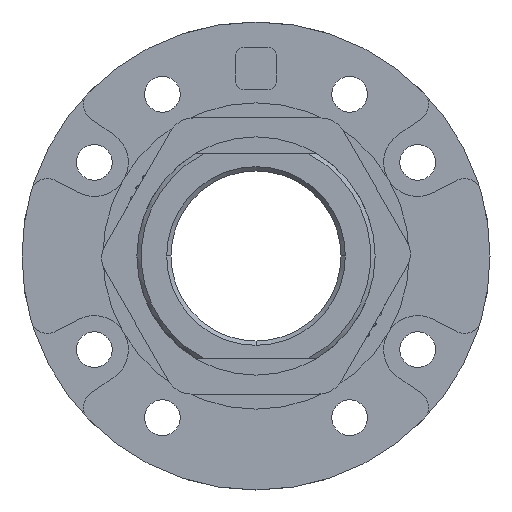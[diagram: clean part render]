
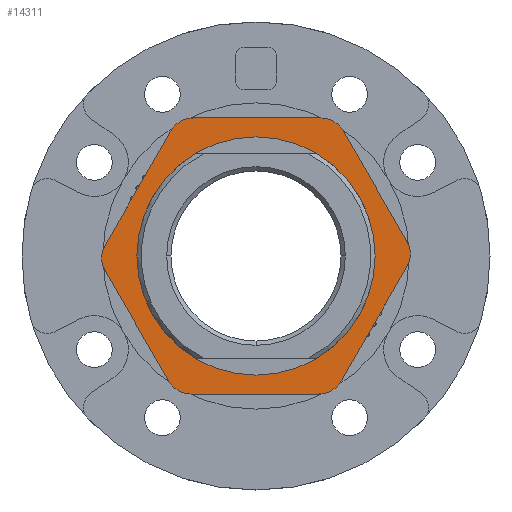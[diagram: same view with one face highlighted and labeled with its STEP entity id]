
A CAD part, front view. The second image highlights one B-rep face of the part: STEP entity #14311.
In plain terms, the highlighted planar face has unit normal (0, -1, 0).
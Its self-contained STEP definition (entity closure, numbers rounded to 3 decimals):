
#221 = DIRECTION ( 'NONE',  ( 0., 0., 1. ) ) ;
#459 = LINE ( 'NONE', #1862, #9056 ) ;
#616 = CARTESIAN_POINT ( 'NONE',  ( 16., -4., -16. ) ) ;
#969 = EDGE_CURVE ( 'NONE', #5305, #7128, #16354, .T. ) ;
#1434 = VERTEX_POINT ( 'NONE', #6833 ) ;
#1451 = CARTESIAN_POINT ( 'NONE',  ( 16., -4., -16. ) ) ;
#1676 = CARTESIAN_POINT ( 'NONE',  ( 8.232, -4., -29. ) ) ;
#1739 = CARTESIAN_POINT ( 'NONE',  ( 16., -4., -2. ) ) ;
#1862 = CARTESIAN_POINT ( 'NONE',  ( 6.5, -4., -32. ) ) ;
#2171 = CARTESIAN_POINT ( 'NONE',  ( 16., -4., -30. ) ) ;
#2496 = VECTOR ( 'NONE', #12977, 1000. ) ;
#2900 = DIRECTION ( 'NONE',  ( 0., -1., 0. ) ) ;
#3077 = AXIS2_PLACEMENT_3D ( 'NONE', #616, #6688, #5096 ) ;
#3500 = CARTESIAN_POINT ( 'NONE',  ( 8.232, -4., 0. ) ) ;
#3655 = AXIS2_PLACEMENT_3D ( 'NONE', #8654, #19398, #5773 ) ;
#3732 = EDGE_CURVE ( 'NONE', #10316, #16621, #19338, .T. ) ;
#3734 = CIRCLE ( 'NONE', #9134, 3. ) ;
#3752 = CARTESIAN_POINT ( 'NONE',  ( 23.768, -4., -29. ) ) ;
#3945 = VERTEX_POINT ( 'NONE', #3500 ) ;
#3961 = LINE ( 'NONE', #16796, #18246 ) ;
#4017 = CARTESIAN_POINT ( 'NONE',  ( 8.232, -4., -32. ) ) ;
#4351 = DIRECTION ( 'NONE',  ( 0., 0., -1. ) ) ;
#4532 = ORIENTED_EDGE ( 'NONE', *, *, #18024, .F. ) ;
#4636 = AXIS2_PLACEMENT_3D ( 'NONE', #1451, #6335, #4351 ) ;
#4644 = CIRCLE ( 'NONE', #7189, 3. ) ;
#4717 = ORIENTED_EDGE ( 'NONE', *, *, #17569, .T. ) ;
#5028 = VERTEX_POINT ( 'NONE', #6906 ) ;
#5096 = DIRECTION ( 'NONE',  ( 0., 0., -1. ) ) ;
#5305 = VERTEX_POINT ( 'NONE', #13896 ) ;
#5405 = CARTESIAN_POINT ( 'NONE',  ( 25.5, -4., 0. ) ) ;
#5412 = DIRECTION ( 'NONE',  ( 0., -1., 0. ) ) ;
#5773 = DIRECTION ( 'NONE',  ( 0., 0., 1. ) ) ;
#5919 = CARTESIAN_POINT ( 'NONE',  ( 33.872, -4., -14.5 ) ) ;
#5945 = CIRCLE ( 'NONE', #3077, 14. ) ;
#6240 = FACE_BOUND ( 'NONE', #6797, .T. ) ;
#6335 = DIRECTION ( 'NONE',  ( 0., -1., 0. ) ) ;
#6377 = DIRECTION ( 'NONE',  ( 0., 0., 1. ) ) ;
#6558 = VERTEX_POINT ( 'NONE', #1739 ) ;
#6579 = EDGE_CURVE ( 'NONE', #7611, #5305, #459, .T. ) ;
#6688 = DIRECTION ( 'NONE',  ( 0., -1., 0. ) ) ;
#6797 = EDGE_LOOP ( 'NONE', ( #4532, #12206 ) ) ;
#6833 = CARTESIAN_POINT ( 'NONE',  ( 26.366, -4., -1.5 ) ) ;
#6906 = CARTESIAN_POINT ( 'NONE',  ( 5.634, -4., -1.5 ) ) ;
#6971 = CARTESIAN_POINT ( 'NONE',  ( -1.872, -4., -17.5 ) ) ;
#7128 = VERTEX_POINT ( 'NONE', #4017 ) ;
#7189 = AXIS2_PLACEMENT_3D ( 'NONE', #14355, #5412, #14439 ) ;
#7311 = CARTESIAN_POINT ( 'NONE',  ( 34.738, -4., -16. ) ) ;
#7493 = VECTOR ( 'NONE', #13917, 1000. ) ;
#7611 = VERTEX_POINT ( 'NONE', #6971 ) ;
#7651 = EDGE_CURVE ( 'NONE', #15001, #3945, #3961, .T. ) ;
#7721 = DIRECTION ( 'NONE',  ( 0., 1., 0. ) ) ;
#7828 = CARTESIAN_POINT ( 'NONE',  ( -2.274, -4., -39. ) ) ;
#7851 = CARTESIAN_POINT ( 'NONE',  ( -2.738, -4., -16. ) ) ;
#7902 = EDGE_CURVE ( 'NONE', #7128, #9853, #12321, .T. ) ;
#7934 = ORIENTED_EDGE ( 'NONE', *, *, #6579, .T. ) ;
#7973 = DIRECTION ( 'NONE',  ( 0., -1., 0. ) ) ;
#8105 = VECTOR ( 'NONE', #18562, 1000. ) ;
#8654 = CARTESIAN_POINT ( 'NONE',  ( 0.726, -4., -16. ) ) ;
#8757 = EDGE_CURVE ( 'NONE', #10153, #1434, #19022, .T. ) ;
#9056 = VECTOR ( 'NONE', #15489, 1000. ) ;
#9134 = AXIS2_PLACEMENT_3D ( 'NONE', #3752, #12788, #18851 ) ;
#9853 = VERTEX_POINT ( 'NONE', #11198 ) ;
#10153 = VERTEX_POINT ( 'NONE', #5919 ) ;
#10316 = VERTEX_POINT ( 'NONE', #12373 ) ;
#10364 = ORIENTED_EDGE ( 'NONE', *, *, #15136, .T. ) ;
#10387 = EDGE_CURVE ( 'NONE', #3945, #5028, #4644, .T. ) ;
#10607 = FACE_OUTER_BOUND ( 'NONE', #11701, .T. ) ;
#10767 = CARTESIAN_POINT ( 'NONE',  ( 31.274, -4., -16. ) ) ;
#10870 = EDGE_CURVE ( 'NONE', #6558, #13984, #5945, .T. ) ;
#10919 = LINE ( 'NONE', #7851, #7493 ) ;
#11198 = CARTESIAN_POINT ( 'NONE',  ( 23.768, -4., -32. ) ) ;
#11486 = ORIENTED_EDGE ( 'NONE', *, *, #7651, .T. ) ;
#11686 = CARTESIAN_POINT ( 'NONE',  ( 23.768, -4., 0. ) ) ;
#11701 = EDGE_LOOP ( 'NONE', ( #17835, #18486, #4717, #7934, #14882, #16271, #18066, #13624, #11956, #15086, #10364, #11486 ) ) ;
#11947 = EDGE_CURVE ( 'NONE', #16621, #10153, #12968, .T. ) ;
#11956 = ORIENTED_EDGE ( 'NONE', *, *, #11947, .T. ) ;
#12206 = ORIENTED_EDGE ( 'NONE', *, *, #10870, .F. ) ;
#12321 = LINE ( 'NONE', #13905, #8105 ) ;
#12373 = CARTESIAN_POINT ( 'NONE',  ( 26.366, -4., -30.5 ) ) ;
#12402 = PLANE ( 'NONE',  #16490 ) ;
#12788 = DIRECTION ( 'NONE',  ( 0., -1., 0. ) ) ;
#12968 = CIRCLE ( 'NONE', #15182, 3. ) ;
#12977 = DIRECTION ( 'NONE',  ( 0.5, 0., 0.866 ) ) ;
#13047 = EDGE_CURVE ( 'NONE', #9853, #10316, #3734, .T. ) ;
#13420 = CARTESIAN_POINT ( 'NONE',  ( -1.872, -4., -14.5 ) ) ;
#13540 = CIRCLE ( 'NONE', #4636, 14. ) ;
#13545 = CIRCLE ( 'NONE', #16724, 3. ) ;
#13624 = ORIENTED_EDGE ( 'NONE', *, *, #3732, .T. ) ;
#13838 = CARTESIAN_POINT ( 'NONE',  ( 23.768, -4., -3. ) ) ;
#13896 = CARTESIAN_POINT ( 'NONE',  ( 5.634, -4., -30.5 ) ) ;
#13905 = CARTESIAN_POINT ( 'NONE',  ( 25.5, -4., -32. ) ) ;
#13917 = DIRECTION ( 'NONE',  ( -0.5, 0., -0.866 ) ) ;
#13946 = DIRECTION ( 'NONE',  ( 0., 0., 1. ) ) ;
#13984 = VERTEX_POINT ( 'NONE', #2171 ) ;
#14311 = ADVANCED_FACE ( 'NONE', ( #6240, #10607 ), #12402, .F. ) ;
#14355 = CARTESIAN_POINT ( 'NONE',  ( 8.232, -4., -3. ) ) ;
#14439 = DIRECTION ( 'NONE',  ( 0., 0., 1. ) ) ;
#14882 = ORIENTED_EDGE ( 'NONE', *, *, #969, .T. ) ;
#15001 = VERTEX_POINT ( 'NONE', #11686 ) ;
#15086 = ORIENTED_EDGE ( 'NONE', *, *, #8757, .T. ) ;
#15136 = EDGE_CURVE ( 'NONE', #1434, #15001, #13545, .T. ) ;
#15182 = AXIS2_PLACEMENT_3D ( 'NONE', #10767, #17131, #13946 ) ;
#15489 = DIRECTION ( 'NONE',  ( 0.5, 0., -0.866 ) ) ;
#16024 = DIRECTION ( 'NONE',  ( -0.5, 0., 0.866 ) ) ;
#16271 = ORIENTED_EDGE ( 'NONE', *, *, #7902, .T. ) ;
#16354 = CIRCLE ( 'NONE', #16687, 3. ) ;
#16490 = AXIS2_PLACEMENT_3D ( 'NONE', #7828, #7721, #18464 ) ;
#16621 = VERTEX_POINT ( 'NONE', #18016 ) ;
#16687 = AXIS2_PLACEMENT_3D ( 'NONE', #1676, #7973, #6377 ) ;
#16724 = AXIS2_PLACEMENT_3D ( 'NONE', #13838, #2900, #221 ) ;
#16796 = CARTESIAN_POINT ( 'NONE',  ( -2.274, -4., 0. ) ) ;
#17131 = DIRECTION ( 'NONE',  ( 0., -1., 0. ) ) ;
#17507 = VERTEX_POINT ( 'NONE', #13420 ) ;
#17569 = EDGE_CURVE ( 'NONE', #17507, #7611, #18909, .T. ) ;
#17600 = EDGE_CURVE ( 'NONE', #5028, #17507, #10919, .T. ) ;
#17686 = VECTOR ( 'NONE', #16024, 1000. ) ;
#17835 = ORIENTED_EDGE ( 'NONE', *, *, #10387, .T. ) ;
#18016 = CARTESIAN_POINT ( 'NONE',  ( 33.872, -4., -17.5 ) ) ;
#18024 = EDGE_CURVE ( 'NONE', #13984, #6558, #13540, .T. ) ;
#18066 = ORIENTED_EDGE ( 'NONE', *, *, #13047, .T. ) ;
#18246 = VECTOR ( 'NONE', #19390, 1000. ) ;
#18464 = DIRECTION ( 'NONE',  ( 0., 0., 1. ) ) ;
#18486 = ORIENTED_EDGE ( 'NONE', *, *, #17600, .T. ) ;
#18562 = DIRECTION ( 'NONE',  ( 1., 0., 0. ) ) ;
#18851 = DIRECTION ( 'NONE',  ( 0., 0., 1. ) ) ;
#18909 = CIRCLE ( 'NONE', #3655, 3. ) ;
#19022 = LINE ( 'NONE', #5405, #17686 ) ;
#19338 = LINE ( 'NONE', #7311, #2496 ) ;
#19390 = DIRECTION ( 'NONE',  ( -1., 0., 0. ) ) ;
#19398 = DIRECTION ( 'NONE',  ( 0., -1., 0. ) ) ;
